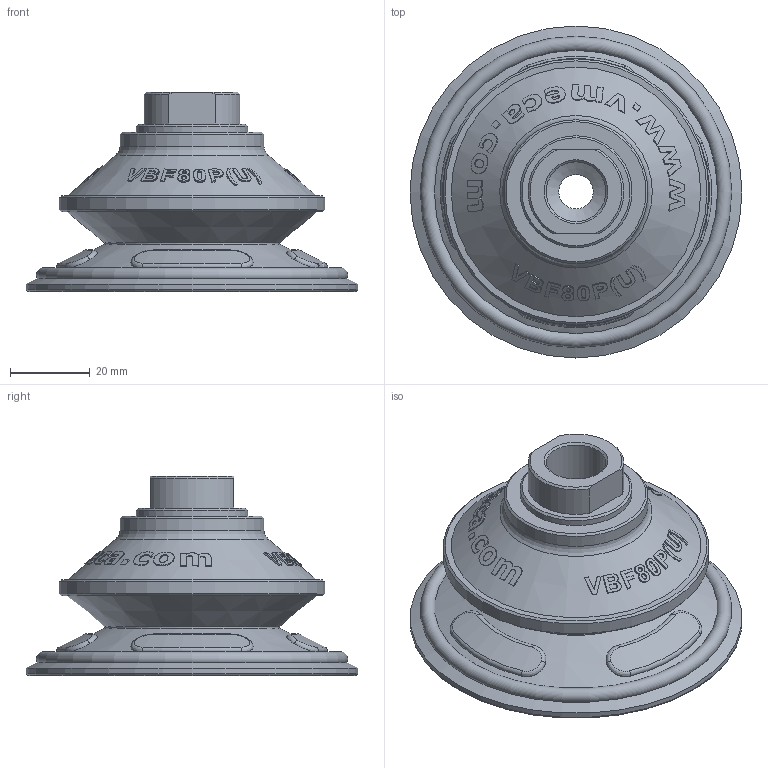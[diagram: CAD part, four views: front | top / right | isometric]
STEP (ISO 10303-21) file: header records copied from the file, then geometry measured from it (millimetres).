
FILE_DESCRIPTION( ( 'Unknown' ), '1' );
FILE_NAME( 'D:/濛機奢濰/Vacuum Pads/VBF/VBF80/STP/VBF80 P(U)_38F.stp', 'Unknown', ( 'Unknown' ), ( 'Unknown' ), 'XStep 1.0', 'Unknown', ' ' );
FILE_SCHEMA( ( 'automotive_design' ) );
Length unit declared in the file: millimetre
Products named in the file (1): 1
Bounding box: 83 x 83 x 50 mm (x, y, z)
Volume: 43964.1 mm3; surface area: 26431.7 mm2
Topology: 1 solids, 1 shells, 263 faces, 643 edges, 422 vertices
Faces by surface type: bspline 174, cone 52, torus 15, plane 11, cylinder 11
Full cylindrical faces by diameter (mm): 8.6 x1, 11.2 x1, 14.95 x2, 28 x1, 33 x1, 36 x1, 66.5 x1, 83 x1
Entity records: 21400 total; most frequent: CARTESIAN_POINT 14734, ORIENTED_EDGE 1194, EDGE_CURVE 597, B_SPLINE_CURVE_WITH_KNOTS 504, VERTEX_POINT 415, DIRECTION 358, EDGE_LOOP 344, FACE_OUTER_BOUND 285
